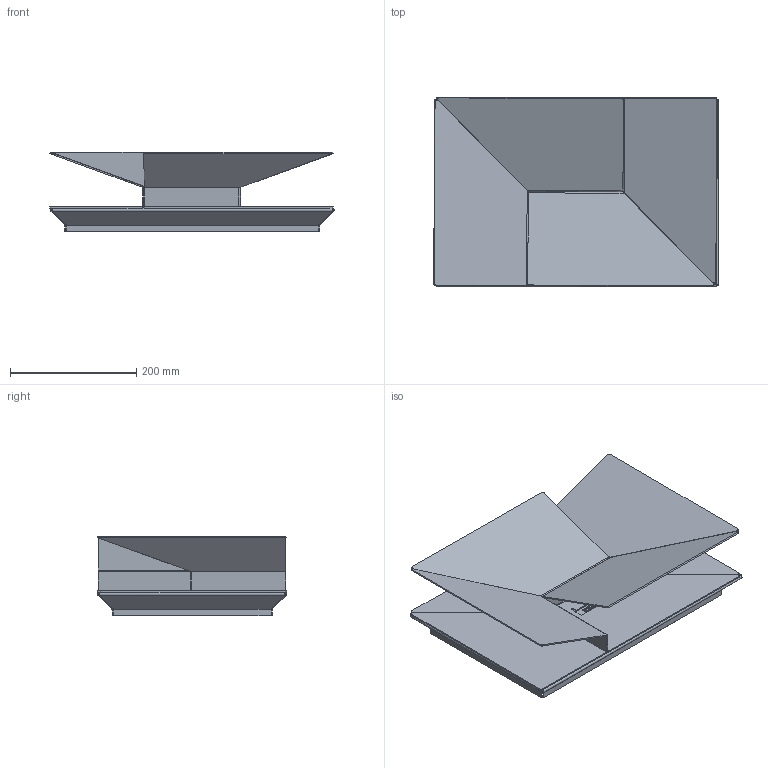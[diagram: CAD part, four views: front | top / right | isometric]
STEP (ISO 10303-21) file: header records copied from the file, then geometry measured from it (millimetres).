
FILE_DESCRIPTION (( 'STEP AP214' ), '1' );
FILE_NAME ('3D_WALL_SHADOW_MOYEN.STEP', '2018-03-15T09:11:59', ( 'Utente' ), ( '' ), 'SwSTEP 2.0', 'SolidWorks 2016', '' );
FILE_SCHEMA (( 'AUTOMOTIVE_DESIGN' ));
Length unit declared in the file: millimetre
Products named in the file (6): Group1^3D_WALL_SHADOW_MOYEN; 3D_WALL_SHADOW_MOYEN; 010WSH700700 - SAGOMA N°6MARTIMM-1^3D_WALL_SHADOW_MOYEN; 010WSH700101_Corpo sostegno sagome moyenMARTIMM-1^3D_WALL_SHADOW_MOYEN; 010WSH700400 - SAGOMA N°3MARTIMM-1^3D_WALL_SHADOW_MOYEN; Group4^3D_WALL_SHADOW_MOYEN
Assembly tree (5 placements, depth 2):
  3D_WALL_SHADOW_MOYEN
    Group1^3D_WALL_SHADOW_MOYEN
    Group4^3D_WALL_SHADOW_MOYEN
    010WSH700400 - SAGOMA N°3MARTIMM-1^3D_WALL_SHADOW_MOYEN
    010WSH700101_Corpo sostegno sagome moyenMARTIMM-1^3D_WALL_SHADOW_MOYEN
    010WSH700700 - SAGOMA N°6MARTIMM-1^3D_WALL_SHADOW_MOYEN
Bounding box: 450.87 x 300.24 x 125.59 mm (x, y, z)
Volume: 872453.1 mm3; surface area: 977474.1 mm2
Topology: 8 solids, 8 shells, 542 faces, 1296 edges, 820 vertices
Faces by surface type: plane 420, cylinder 73, bspline 49
Entity records: 18149 total; most frequent: CARTESIAN_POINT 5587, ORIENTED_EDGE 2592, DIRECTION 2314, EDGE_CURVE 1296, LINE 1084, VECTOR 1084, VERTEX_POINT 820, AXIS2_PLACEMENT_3D 615
